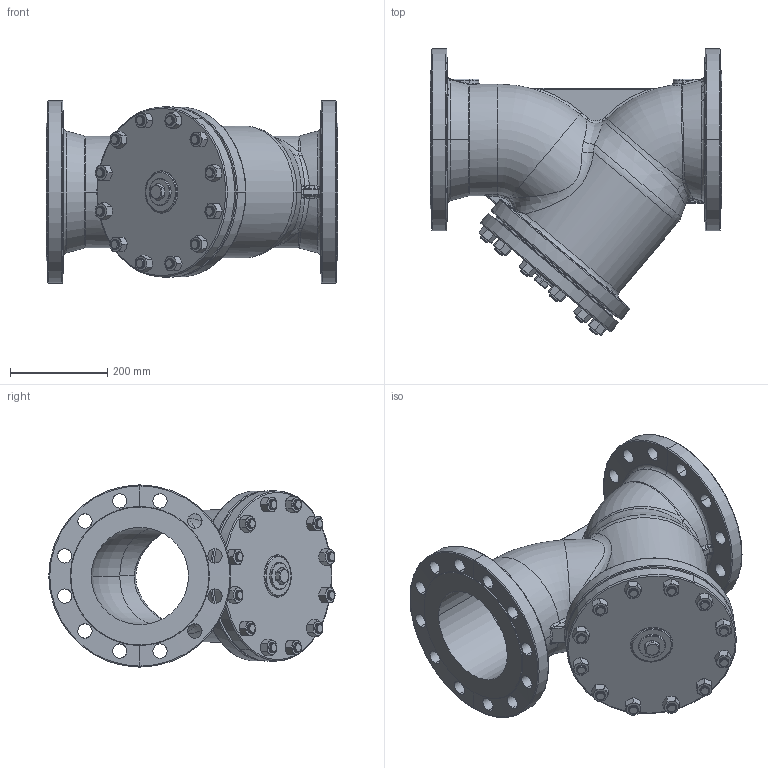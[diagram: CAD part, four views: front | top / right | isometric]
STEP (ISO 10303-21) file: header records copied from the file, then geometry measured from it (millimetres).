
FILE_DESCRIPTION (( 'STEP AP203' ), '1' );
FILE_NAME ('821_DN200 PN40.STEP', '2010-01-13T07:56:02', ( 'wtarnaws' ), ( '' ), 'SwSTEP 2.0', 'SolidWorks 2010', '' );
FILE_SCHEMA (( 'CONFIG_CONTROL_DESIGN' ));
Length unit declared in the file: millimetre
Products named in the file (6): 821_DN200 PN40; kad³ub 200 - z; Pokrywa 200; KOREK 1 1-2_Default; PN-EB ISO 4032_Nakrêtka szeœciok¹tna M20; M20 x 55-1_PreviewCfg
Assembly tree (27 placements, depth 2):
  821_DN200 PN40
    kad³ub 200 - z
    M20 x 55-1_PreviewCfg  x12
    PN-EB ISO 4032_Nakrêtka szeœciok¹tna M20  x12
    KOREK 1 1-2_Default
    Pokrywa 200
Bounding box: 600 x 589.52 x 375 mm (x, y, z)
Volume: 16576047.8 mm3; surface area: 1840061.4 mm2
Topology: 27 solids, 27 shells, 1096 faces, 2429 edges, 1404 vertices
Faces by surface type: cone 356, cylinder 306, plane 182, torus 150, bspline 102
Entity records: 51303 total; most frequent: CARTESIAN_POINT 39802, ORIENTED_EDGE 2254, DIRECTION 1947, EDGE_CURVE 1127, AXIS2_PLACEMENT_3D 845, VERTEX_POINT 678, EDGE_LOOP 561, CIRCLE 459
